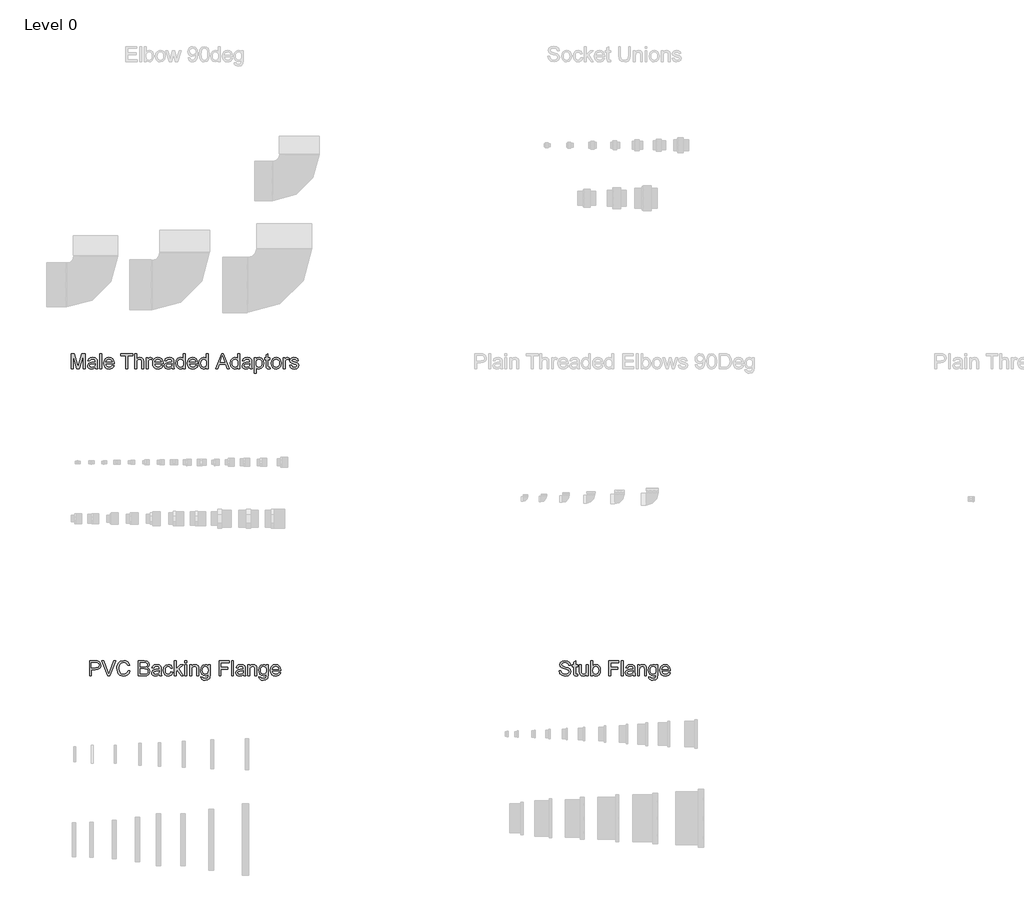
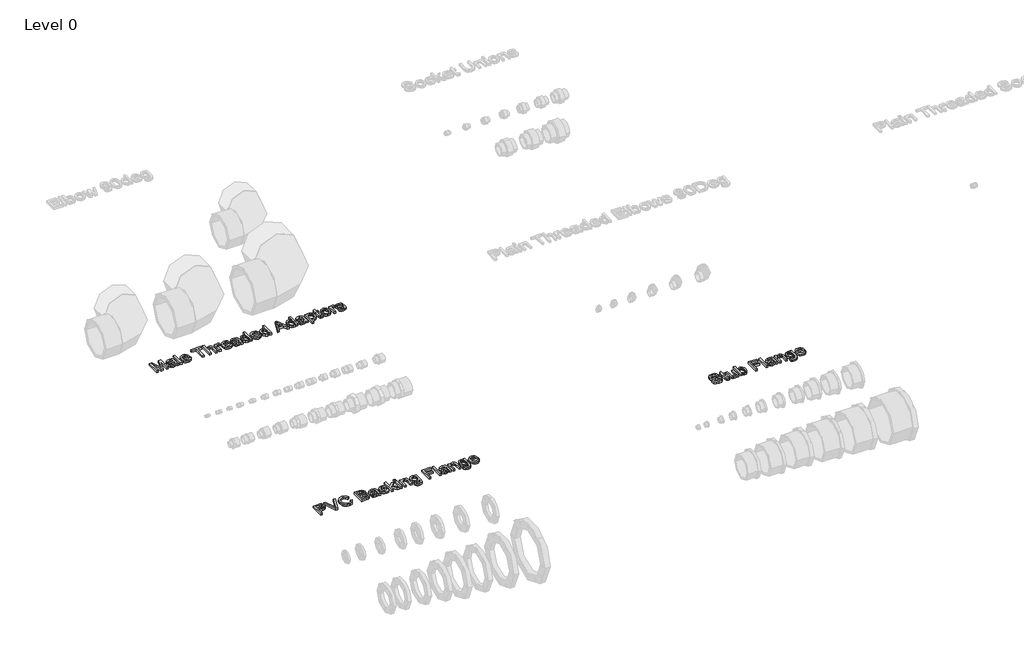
# One storey, part 4 of 12: 3 proxies.
"""IFC4 building model written with IfcOpenShell, lengths in millimetres."""

from ifc_helpers import new_model, si_unit, origin, origin_with_axes, place, context, project, spatial, polyline, outline, extrude, element, save

model = new_model("IFC4")

# Units and contexts
model_context = context("Model", 3, world=origin())
ifc_project = project(units=[si_unit("LENGTHUNIT", "METRE", prefix="MILLI")], contexts=[model_context])

# Site, building, storey
site = spatial("IfcSite", under=ifc_project)
building = spatial("IfcBuilding", under=site)
storey = spatial("IfcBuildingStorey", under=building, Name="Level 0", Elevation=0.0)

# Proxies
placement = place(None, origin())
element("IfcBuildingElementProxy", 1, Name="150mm Arial", ObjectType="150mm Arial", at=placement, inside=storey, context=model_context, shape_type="SweptSolid", body=[
    extrude(outline(polyline([(-16975.6592535, 945.7253457), (-16975.6592535, 1044.1868842), (-16954.4813689, 1044.1868842), (-16934.3371381, 974.7878457), (-16930.2746381, 960.2926534), (-16925.8755996, 975.9897688), (-16906.0679073, 1044.1868842), (-16884.8900227, 1044.1868842), (-16884.8900227, 945.7253457), (-16897.197715, 945.7253457), (-16897.197715, 1031.8791919), (-16921.9332919, 945.7253457), (-16938.6159843, 945.7253457), (-16963.3515612, 1031.8791919), (-16963.3515612, 945.7253457), (-16975.6592535, 945.7253457)])), origin_with_axes(), (0.0, 0.0, 1.0), 15.0),
    extrude(outline(polyline([(-16818.7361766, 954.956115), (-16830.6712727, 946.6147688), (-16843.8563689, 944.1868842), (-16854.1418256, 945.6472207), (-16861.728965, 950.0282304), (-16866.4074506, 956.6808746), (-16867.9669458, 964.956115), (-16865.6111766, 974.6916919), (-16859.4212727, 981.7589996), (-16850.8034843, 985.7974611), (-16840.1544458, 987.6484227), (-16818.8082919, 991.8791919), (-16818.7361766, 994.6195765), (-16822.1255996, 1003.706115), (-16835.7313689, 1007.2638073), (-16848.1832919, 1004.8960188), (-16854.1207919, 996.4945765), (-16866.4284843, 998.033038), (-16861.103965, 1010.0522688), (-16850.3828112, 1017.095538), (-16834.1448304, 1019.5714996), (-16819.228965, 1017.3839996), (-16810.8034843, 1011.8912111), (-16807.0294458, 1003.5378457), (-16806.4284843, 992.768615), (-16806.4284843, 977.456115), (-16805.8034843, 956.0739034), (-16803.3515612, 945.7253457), (-16815.6592535, 945.7253457), (-16818.7361766, 954.956115)]), holes=[polyline([(-16818.7361766, 979.5714996), (-16838.5919458, 975.7974611), (-16849.1808881, 973.8022688), (-16853.9765612, 970.5570765), (-16855.6592535, 965.8214996), (-16851.9933881, 959.1628457), (-16841.2361766, 956.4945765), (-16828.7842535, 959.439288), (-16820.7554073, 966.5666919), (-16818.8082919, 976.0859227), (-16818.7361766, 979.5714996)])]), origin_with_axes(), (0.0, 0.0, 1.0), 15.0),
    extrude(outline(polyline([(-16789.5054073, 945.7253457), (-16789.5054073, 1044.1868842), (-16777.197715, 1044.1868842), (-16777.197715, 945.7253457), (-16789.5054073, 945.7253457)])), origin_with_axes(), (0.0, 0.0, 1.0), 15.0),
    extrude(outline(polyline([(-16708.1111766, 967.2638073), (-16696.0438689, 965.7253457), (-16700.3918256, 956.6327977), (-16707.3299266, 949.8359227), (-16716.7019218, 945.5991438), (-16728.3515612, 944.1868842), (-16742.7926669, 946.6237832), (-16753.9044458, 953.9344804), (-16760.9897823, 965.6442159), (-16763.3515612, 981.2782304), (-16760.9657439, 997.4380861), (-16753.8082919, 1009.5234227), (-16742.8467535, 1017.0594804), (-16729.0486766, 1019.5714996), (-16715.6802871, 1017.06549), (-16704.9981958, 1009.5474611), (-16697.9939891, 997.486163), (-16695.6592535, 981.3503457), (-16695.7313689, 978.033038), (-16751.0438689, 978.033038), (-16748.9134602, 968.8202977), (-16743.9645419, 962.0474611), (-16728.1111766, 956.4945765), (-16716.0438689, 959.0666919), (-16708.1111766, 967.2638073)]), holes=[polyline([(-16751.0438689, 990.3407304), (-16707.9669458, 990.3407304), (-16712.8948304, 1001.4945765), (-16720.0703112, 1005.8214996), (-16729.0967535, 1007.2638073), (-16744.2530035, 1002.6604419), (-16751.0438689, 990.3407304)])]), origin_with_axes(), (0.0, 0.0, 1.0), 15.0),
    extrude(outline(polyline([(-16618.7361766, 945.7253457), (-16618.7361766, 1031.8791919), (-16651.0438689, 1031.8791919), (-16651.0438689, 1044.1868842), (-16574.1207919, 1044.1868842), (-16574.1207919, 1031.8791919), (-16606.4284843, 1031.8791919), (-16606.4284843, 945.7253457), (-16618.7361766, 945.7253457)])), origin_with_axes(), (0.0, 0.0, 1.0), 15.0),
    extrude(outline(polyline([(-16561.8130996, 945.7253457), (-16561.8130996, 1044.1868842), (-16549.5054073, 1044.1868842), (-16549.5054073, 1007.9849611), (-16539.9080516, 1016.674865), (-16528.0871381, 1019.5714996), (-16514.2650227, 1016.4104419), (-16505.8755996, 1007.6724611), (-16503.3515612, 991.4945765), (-16503.3515612, 945.7253457), (-16515.6592535, 945.7253457), (-16515.6592535, 990.220538), (-16519.5775227, 1003.2013073), (-16530.6832919, 1007.2638073), (-16540.7674266, 1004.5234227), (-16547.4981958, 997.095538), (-16549.5054073, 984.1388073), (-16549.5054073, 945.7253457), (-16561.8130996, 945.7253457)])), origin_with_axes(), (0.0, 0.0, 1.0), 15.0),
    extrude(outline(polyline([(-16486.4284843, 945.7253457), (-16486.4284843, 1018.033038), (-16475.6592535, 1018.033038), (-16475.6592535, 1007.3359227), (-16468.0150227, 1017.1916919), (-16460.322715, 1019.5714996), (-16447.9669458, 1015.7734227), (-16452.0775227, 1004.7397688), (-16460.7313689, 1007.2638073), (-16467.6905035, 1004.8359227), (-16472.1255996, 998.1051534), (-16474.1207919, 983.7301534), (-16474.1207919, 945.7253457), (-16486.4284843, 945.7253457)])), origin_with_axes(), (0.0, 0.0, 1.0), 15.0),
    extrude(outline(polyline([(-16389.6496381, 967.2638073), (-16377.5823304, 965.7253457), (-16381.9302871, 956.6327977), (-16388.8683881, 949.8359227), (-16398.2403833, 945.5991438), (-16409.8900227, 944.1868842), (-16424.3311285, 946.6237832), (-16435.4429073, 953.9344804), (-16442.5282439, 965.6442159), (-16444.8900227, 981.2782304), (-16442.5042054, 997.4380861), (-16435.3467535, 1009.5234227), (-16424.385215, 1017.0594804), (-16410.5871381, 1019.5714996), (-16397.2187487, 1017.06549), (-16386.5366573, 1009.5474611), (-16379.5324506, 997.486163), (-16377.197715, 981.3503457), (-16377.2698304, 978.033038), (-16432.5823304, 978.033038), (-16430.4519218, 968.8202977), (-16425.5030035, 962.0474611), (-16409.6496381, 956.4945765), (-16397.5823304, 959.0666919), (-16389.6496381, 967.2638073)]), holes=[polyline([(-16432.5823304, 990.3407304), (-16389.5054073, 990.3407304), (-16394.4332919, 1001.4945765), (-16401.6087727, 1005.8214996), (-16410.635215, 1007.2638073), (-16425.791465, 1002.6604419), (-16432.5823304, 990.3407304)])]), origin_with_axes(), (0.0, 0.0, 1.0), 15.0),
    extrude(outline(polyline([(-16318.7361766, 954.956115), (-16330.6712727, 946.6147688), (-16343.8563689, 944.1868842), (-16354.1418256, 945.6472207), (-16361.728965, 950.0282304), (-16366.4074506, 956.6808746), (-16367.9669458, 964.956115), (-16365.6111766, 974.6916919), (-16359.4212727, 981.7589996), (-16350.8034843, 985.7974611), (-16340.1544458, 987.6484227), (-16318.8082919, 991.8791919), (-16318.7361766, 994.6195765), (-16322.1255996, 1003.706115), (-16335.7313689, 1007.2638073), (-16348.1832919, 1004.8960188), (-16354.1207919, 996.4945765), (-16366.4284843, 998.033038), (-16361.103965, 1010.0522688), (-16350.3828112, 1017.095538), (-16334.1448304, 1019.5714996), (-16319.228965, 1017.3839996), (-16310.8034843, 1011.8912111), (-16307.0294458, 1003.5378457), (-16306.4284843, 992.768615), (-16306.4284843, 977.456115), (-16305.8034843, 956.0739034), (-16303.3515612, 945.7253457), (-16315.6592535, 945.7253457), (-16318.7361766, 954.956115)]), holes=[polyline([(-16318.7361766, 979.5714996), (-16338.5919458, 975.7974611), (-16349.1808881, 973.8022688), (-16353.9765612, 970.5570765), (-16355.6592535, 965.8214996), (-16351.9933881, 959.1628457), (-16341.2361766, 956.4945765), (-16328.7842535, 959.439288), (-16320.7554073, 966.5666919), (-16318.8082919, 976.0859227), (-16318.7361766, 979.5714996)])]), origin_with_axes(), (0.0, 0.0, 1.0), 15.0),
    extrude(outline(polyline([(-16244.8900227, 945.7253457), (-16244.8900227, 957.3359227), (-16253.0330516, 947.4741438), (-16264.2890612, 944.1868842), (-16279.5294458, 948.9464996), (-16290.2986766, 962.2277496), (-16294.1207919, 981.8070765), (-16290.5991573, 1001.3984227), (-16280.0462727, 1014.8839996), (-16264.3371381, 1019.5714996), (-16252.9909843, 1016.2181342), (-16244.8900227, 1007.5041919), (-16244.8900227, 1044.1868842), (-16232.5823304, 1044.1868842), (-16232.5823304, 945.7253457), (-16244.8900227, 945.7253457)]), holes=[polyline([(-16281.8130996, 981.8551534), (-16280.4248785, 970.7223409), (-16276.260215, 962.8046727), (-16270.2085323, 958.0721005), (-16263.1592535, 956.4945765), (-16256.1129794, 957.9999852), (-16250.2145419, 962.5162111), (-16246.2211525, 970.127389), (-16244.8900227, 980.9176534), (-16246.245191, 992.7145284), (-16250.3106958, 1000.893615), (-16256.3593737, 1005.6712592), (-16263.6640612, 1007.2638073), (-16270.7854554, 1005.7343602), (-16276.6207919, 1001.1460188), (-16280.5150227, 993.2644082), (-16281.8130996, 981.8551534)])]), origin_with_axes(), (0.0, 0.0, 1.0), 15.0),
    extrude(outline(polyline([(-16163.4957919, 967.2638073), (-16151.4284843, 965.7253457), (-16155.776441, 956.6327977), (-16162.7145419, 949.8359227), (-16172.0865371, 945.5991438), (-16183.7361766, 944.1868842), (-16198.1772823, 946.6237832), (-16209.2890612, 953.9344804), (-16216.3743977, 965.6442159), (-16218.7361766, 981.2782304), (-16216.3503593, 997.4380861), (-16209.1929073, 1009.5234227), (-16198.2313689, 1017.0594804), (-16184.4332919, 1019.5714996), (-16171.0649025, 1017.06549), (-16160.3828112, 1009.5474611), (-16153.3786044, 997.486163), (-16151.0438689, 981.3503457), (-16151.1159843, 978.033038), (-16206.4284843, 978.033038), (-16204.2980756, 968.8202977), (-16199.3491573, 962.0474611), (-16183.4957919, 956.4945765), (-16171.4284843, 959.0666919), (-16163.4957919, 967.2638073)]), holes=[polyline([(-16206.4284843, 990.3407304), (-16163.3515612, 990.3407304), (-16168.2794458, 1001.4945765), (-16175.4549266, 1005.8214996), (-16184.4813689, 1007.2638073), (-16199.6376189, 1002.6604419), (-16206.4284843, 990.3407304)])]), origin_with_axes(), (0.0, 0.0, 1.0), 15.0),
    extrude(outline(polyline([(-16094.1207919, 945.7253457), (-16094.1207919, 957.3359227), (-16102.2638208, 947.4741438), (-16113.5198304, 944.1868842), (-16128.760215, 948.9464996), (-16139.5294458, 962.2277496), (-16143.3515612, 981.8070765), (-16139.8299266, 1001.3984227), (-16129.2770419, 1014.8839996), (-16113.5679073, 1019.5714996), (-16102.2217535, 1016.2181342), (-16094.1207919, 1007.5041919), (-16094.1207919, 1044.1868842), (-16081.8130996, 1044.1868842), (-16081.8130996, 945.7253457), (-16094.1207919, 945.7253457)]), holes=[polyline([(-16131.0438689, 981.8551534), (-16129.6556477, 970.7223409), (-16125.4909843, 962.8046727), (-16119.4393016, 958.0721005), (-16112.3900227, 956.4945765), (-16105.3437487, 957.9999852), (-16099.4453112, 962.5162111), (-16095.4519218, 970.127389), (-16094.1207919, 980.9176534), (-16095.4759602, 992.7145284), (-16099.541465, 1000.893615), (-16105.5901429, 1005.6712592), (-16112.8948304, 1007.2638073), (-16120.0162246, 1005.7343602), (-16125.8515612, 1001.1460188), (-16129.7457919, 993.2644082), (-16131.0438689, 981.8551534)])]), origin_with_axes(), (0.0, 0.0, 1.0), 15.0),
    extrude(outline(polyline([(-16034.8179073, 945.7253457), (-15995.5150227, 1044.1868842), (-15985.0342535, 1044.1868842), (-15945.7313689, 945.7253457), (-15958.7361766, 945.7253457), (-15970.010215, 976.4945765), (-16010.5630996, 976.4945765), (-16021.8130996, 945.7253457), (-16034.8179073, 945.7253457)]), holes=[polyline([(-16006.0438689, 988.8022688), (-15974.5054073, 988.8022688), (-15983.3755996, 1013.0089996), (-15990.2746381, 1031.8791919), (-15996.4044458, 1015.1243842), (-16006.0438689, 988.8022688)])]), origin_with_axes(), (0.0, 0.0, 1.0), 15.0),
    extrude(outline(polyline([(-15889.5054073, 945.7253457), (-15889.5054073, 957.3359227), (-15897.6484362, 947.4741438), (-15908.9044458, 944.1868842), (-15924.1448304, 948.9464996), (-15934.9140612, 962.2277496), (-15938.7361766, 981.8070765), (-15935.2145419, 1001.3984227), (-15924.6616573, 1014.8839996), (-15908.9525227, 1019.5714996), (-15897.6063689, 1016.2181342), (-15889.5054073, 1007.5041919), (-15889.5054073, 1044.1868842), (-15877.197715, 1044.1868842), (-15877.197715, 945.7253457), (-15889.5054073, 945.7253457)]), holes=[polyline([(-15926.4284843, 981.8551534), (-15925.0402631, 970.7223409), (-15920.8755996, 962.8046727), (-15914.8239169, 958.0721005), (-15907.7746381, 956.4945765), (-15900.7283641, 957.9999852), (-15894.8299266, 962.5162111), (-15890.8365371, 970.127389), (-15889.5054073, 980.9176534), (-15890.8605756, 992.7145284), (-15894.9260804, 1000.893615), (-15900.9747583, 1005.6712592), (-15908.2794458, 1007.2638073), (-15915.40084, 1005.7343602), (-15921.2361766, 1001.1460188), (-15925.1304073, 993.2644082), (-15926.4284843, 981.8551534)])]), origin_with_axes(), (0.0, 0.0, 1.0), 15.0),
    extrude(outline(polyline([(-15812.5823304, 954.956115), (-15824.5174266, 946.6147688), (-15837.7025227, 944.1868842), (-15847.9879794, 945.6472207), (-15855.5751189, 950.0282304), (-15860.2536044, 956.6808746), (-15861.8130996, 964.956115), (-15859.4573304, 974.6916919), (-15853.2674266, 981.7589996), (-15844.6496381, 985.7974611), (-15834.0005996, 987.6484227), (-15812.6544458, 991.8791919), (-15812.5823304, 994.6195765), (-15815.9717535, 1003.706115), (-15829.5775227, 1007.2638073), (-15842.0294458, 1004.8960188), (-15847.9669458, 996.4945765), (-15860.2746381, 998.033038), (-15854.9501189, 1010.0522688), (-15844.228965, 1017.095538), (-15827.9909843, 1019.5714996), (-15813.0751189, 1017.3839996), (-15804.6496381, 1011.8912111), (-15800.8755996, 1003.5378457), (-15800.2746381, 992.768615), (-15800.2746381, 977.456115), (-15799.6496381, 956.0739034), (-15797.197715, 945.7253457), (-15809.5054073, 945.7253457), (-15812.5823304, 954.956115)]), holes=[polyline([(-15812.5823304, 979.5714996), (-15832.4380996, 975.7974611), (-15843.0270419, 973.8022688), (-15847.822715, 970.5570765), (-15849.5054073, 965.8214996), (-15845.8395419, 959.1628457), (-15835.0823304, 956.4945765), (-15822.6304073, 959.439288), (-15814.6015612, 966.5666919), (-15812.6544458, 976.0859227), (-15812.5823304, 979.5714996)])]), origin_with_axes(), (0.0, 0.0, 1.0), 15.0),
    extrude(outline(polyline([(-15783.3515612, 918.033038), (-15783.3515612, 1018.033038), (-15771.0438689, 1018.033038), (-15771.0438689, 1005.9657304), (-15762.5342535, 1016.1700573), (-15751.0438689, 1019.5714996), (-15735.4429073, 1014.8118842), (-15725.2505996, 1001.3984227), (-15721.8130996, 982.4320765), (-15725.6953112, 962.4921727), (-15736.9693496, 948.9104419), (-15752.5342535, 944.1868842), (-15763.2433881, 947.3479419), (-15771.0438689, 955.3407304), (-15771.0438689, 918.033038), (-15783.3515612, 918.033038)]), holes=[polyline([(-15771.0438689, 981.3022688), (-15769.7127391, 970.268615), (-15765.7193496, 962.5522688), (-15759.8269218, 958.0089996), (-15752.7986766, 956.4945765), (-15745.6562487, 958.0630861), (-15739.6135804, 962.768615), (-15735.4939891, 970.767413), (-15734.1207919, 982.2157304), (-15735.4609362, 993.189288), (-15739.4813689, 1001.0138073), (-15745.3647823, 1005.7013073), (-15752.2938689, 1007.2638073), (-15759.2499987, 1005.6021486), (-15765.3587727, 1000.6171727), (-15769.6225948, 992.4651294), (-15771.0438689, 981.3022688)])]), origin_with_axes(), (0.0, 0.0, 1.0), 15.0),
    extrude(outline(polyline([(-15681.8130996, 955.9897688), (-15680.2746381, 945.3647688), (-15689.4813689, 944.1868842), (-15699.7938689, 946.2301534), (-15704.9380996, 951.5907304), (-15706.4284843, 965.5570765), (-15706.4284843, 1005.7253457), (-15715.6592535, 1005.7253457), (-15715.6592535, 1018.033038), (-15706.4284843, 1018.033038), (-15706.4284843, 1035.6051534), (-15694.1207919, 1042.8407304), (-15694.1207919, 1018.033038), (-15681.8130996, 1018.033038), (-15681.8130996, 1005.7253457), (-15694.1207919, 1005.7253457), (-15694.1207919, 965.9176534), (-15693.4717535, 959.5714996), (-15691.3683881, 957.3239034), (-15687.1736766, 956.4945765), (-15681.8130996, 955.9897688)])), origin_with_axes(), (0.0, 0.0, 1.0), 15.0),
    extrude(outline(polyline([(-15672.5823304, 981.8791919), (-15669.9200708, 999.3130861), (-15661.9332919, 1011.5666919), (-15652.0655035, 1017.5702977), (-15640.2505996, 1019.5714996), (-15627.3209121, 1017.1346005), (-15616.9933881, 1009.8239034), (-15610.2235564, 998.2163313), (-15607.9669458, 982.8888073), (-15611.9573304, 960.9897688), (-15623.5799266, 948.5979419), (-15640.2505996, 944.1868842), (-15653.3365371, 946.6147688), (-15663.6520419, 953.8984227), (-15670.3497583, 965.7493842), (-15672.5823304, 981.8791919)]), holes=[polyline([(-15660.2746381, 981.9032304), (-15658.8503593, 970.7644082), (-15654.5775227, 962.8287111), (-15648.1472343, 958.0781102), (-15640.2505996, 956.4945765), (-15632.3900227, 958.0871246), (-15625.9717535, 962.8647688), (-15621.6989169, 970.9056342), (-15620.2746381, 982.2878457), (-15621.7079314, 993.1021486), (-15626.0078112, 1000.9296727), (-15632.4350948, 1005.6802736), (-15640.2505996, 1007.2638073), (-15648.1472343, 1005.6862832), (-15654.5775227, 1000.9537111), (-15658.8503593, 993.0360429), (-15660.2746381, 981.9032304)])]), origin_with_axes(), (0.0, 0.0, 1.0), 15.0),
    extrude(outline(polyline([(-15594.1207919, 945.7253457), (-15594.1207919, 1018.033038), (-15583.3515612, 1018.033038), (-15583.3515612, 1007.3359227), (-15575.7073304, 1017.1916919), (-15568.0150227, 1019.5714996), (-15555.6592535, 1015.7734227), (-15559.7698304, 1004.7397688), (-15568.4236766, 1007.2638073), (-15575.3828112, 1004.8359227), (-15579.8179073, 998.1051534), (-15581.8130996, 983.7301534), (-15581.8130996, 945.7253457), (-15594.1207919, 945.7253457)])), origin_with_axes(), (0.0, 0.0, 1.0), 15.0),
    extrude(outline(polyline([(-15552.5823304, 967.2638073), (-15540.2746381, 968.8022688), (-15534.5775227, 959.6676534), (-15521.5246381, 956.4945765), (-15508.9765612, 959.4032304), (-15504.8900227, 966.2301534), (-15509.0005996, 971.7589996), (-15521.6688689, 975.268615), (-15540.2025227, 981.2902496), (-15548.291465, 988.3214996), (-15551.0438689, 998.2493842), (-15548.8323304, 1007.4200573), (-15542.7986766, 1014.4272688), (-15534.9741573, 1018.0690957), (-15524.385215, 1019.5714996), (-15509.4092535, 1017.1556342), (-15499.8900227, 1010.6171727), (-15495.6592535, 999.5714996), (-15507.9669458, 998.033038), (-15512.5943496, 1004.8239034), (-15523.4236766, 1007.2638073), (-15535.2025227, 1004.9320765), (-15538.7361766, 999.4993842), (-15537.2698304, 995.9176534), (-15532.6784843, 993.2013073), (-15522.0775227, 990.581115), (-15504.0126189, 984.7878457), (-15495.6231958, 978.2253457), (-15492.5823304, 967.5282304), (-15496.1520419, 955.7493842), (-15506.4525227, 947.2037111), (-15521.6929073, 944.1868842), (-15534.1027631, 945.6412111), (-15543.1592535, 950.0041919), (-15549.2049266, 957.2277496), (-15552.5823304, 967.2638073)])), origin_with_axes(), (0.0, 0.0, 1.0), 15.0),
])
element("IfcBuildingElementProxy", 2, Name="150mm Arial", ObjectType="150mm Arial", at=placement, inside=storey, context=model_context, shape_type="SweptSolid", body=[
    extrude(outline(polyline([(-16855.6592535, -1054.2746543), (-16855.6592535, -955.8131158), (-16819.1688689, -955.8131158), (-16804.4573304, -956.7506158), (-16792.4981958, -961.3539812), (-16784.7457919, -970.873212), (-16781.8130996, -984.2986927), (-16783.7932679, -995.90326), (-16789.7337727, -1005.5727312), (-16800.8425468, -1012.0991735), (-16818.3275227, -1014.2746543), (-16843.3515612, -1014.2746543), (-16843.3515612, -1054.2746543), (-16855.6592535, -1054.2746543)]), holes=[polyline([(-16843.3515612, -1001.966962), (-16817.6063689, -1001.966962), (-16799.4813689, -997.4477312), (-16795.4609362, -992.0090293), (-16794.1207919, -984.731385), (-16797.2818496, -974.5390773), (-16805.5871381, -968.9621543), (-16817.8948304, -968.1208081), (-16843.3515612, -968.1208081), (-16843.3515612, -1001.966962)])]), origin_with_axes(), (0.0, 0.0, 1.0), 15.0),
    extrude(outline(polyline([(-16735.8034843, -1054.2746543), (-16774.9861766, -955.8131158), (-16761.8130996, -955.8131158), (-16735.5871381, -1026.7506158), (-16730.2746381, -1042.7361927), (-16725.0342535, -1026.7506158), (-16698.7361766, -955.8131158), (-16685.5630996, -955.8131158), (-16723.0871381, -1054.2746543), (-16735.8034843, -1054.2746543)])), origin_with_axes(), (0.0, 0.0, 1.0), 15.0),
    extrude(outline(polyline([(-16604.8900227, -1019.2746543), (-16592.5823304, -1022.4477312), (-16598.2614169, -1036.7896783), (-16607.1736766, -1047.2674427), (-16618.8804073, -1053.6766975), (-16632.9429073, -1055.8131158), (-16647.2187487, -1054.1965293), (-16658.5558881, -1049.3467696), (-16667.2457919, -1041.4321062), (-16673.5799266, -1030.6208081), (-16678.7361766, -1004.2986927), (-16677.2788448, -989.9417216), (-16672.9068496, -977.543885), (-16665.8485564, -967.4988129), (-16656.3323304, -960.200135), (-16632.6784843, -954.2746543), (-16619.1838929, -956.1917216), (-16608.0270419, -961.9429235), (-16599.5564891, -971.1736927), (-16594.1207919, -983.529462), (-16606.4284843, -986.4621543), (-16616.5246381, -971.3299427), (-16633.1592535, -966.5823466), (-16652.4140612, -971.8467696), (-16663.291465, -985.981385), (-16666.4284843, -1004.2746543), (-16662.7145419, -1025.4765773), (-16651.1520419, -1039.0222504), (-16634.1688689, -1043.5054235), (-16623.8954314, -1041.9789812), (-16615.3347343, -1037.3996543), (-16608.8713929, -1029.8155196), (-16604.8900227, -1019.2746543)])), origin_with_axes(), (0.0, 0.0, 1.0), 15.0),
    extrude(outline(polyline([(-16537.197715, -1054.2746543), (-16537.197715, -955.8131158), (-16499.6255996, -955.8131158), (-16481.2241573, -958.7097504), (-16470.3587727, -967.6160004), (-16466.4284843, -980.2121543), (-16469.7337727, -991.7145581), (-16479.7217535, -1000.4285004), (-16467.5943496, -1009.6111927), (-16463.3515612, -1024.9236927), (-16466.2481958, -1038.1568658), (-16473.4236766, -1047.5799427), (-16484.1328112, -1052.5799427), (-16499.9140612, -1054.2746543), (-16537.197715, -1054.2746543)]), holes=[polyline([(-16524.8900227, -1041.966962), (-16499.6496381, -1041.966962), (-16490.5150227, -1041.4861927), (-16482.7866573, -1038.8059043), (-16477.666465, -1033.3371543), (-16475.6592535, -1025.043885), (-16478.0150227, -1015.4765773), (-16485.6472343, -1009.7674427), (-16500.8515612, -1008.1208081), (-16524.8900227, -1008.1208081), (-16524.8900227, -1041.966962)]), polyline([(-16524.8900227, -995.8131158), (-16502.4140612, -995.8131158), (-16489.2890612, -994.7554235), (-16481.3924266, -990.200135), (-16478.7361766, -982.1833081), (-16481.2121381, -974.154462), (-16488.3034843, -969.4068658), (-16504.1207919, -968.1208081), (-16524.8900227, -968.1208081), (-16524.8900227, -995.8131158)])]), origin_with_axes(), (0.0, 0.0, 1.0), 15.0),
    extrude(outline(polyline([(-16401.8130996, -1045.043885), (-16413.7481958, -1053.3852312), (-16426.9332919, -1055.8131158), (-16437.2187487, -1054.3527793), (-16444.8058881, -1049.9717696), (-16449.4843737, -1043.3191254), (-16451.0438689, -1035.043885), (-16448.6880996, -1025.3083081), (-16442.4981958, -1018.2410004), (-16433.8804073, -1014.2025389), (-16423.2313689, -1012.3515773), (-16401.885215, -1008.1208081), (-16401.8130996, -1005.3804235), (-16405.2025227, -996.293885), (-16418.8082919, -992.7361927), (-16431.260215, -995.1039812), (-16437.197715, -1003.5054235), (-16449.5054073, -1001.966962), (-16444.1808881, -989.9477312), (-16433.4597343, -982.904462), (-16417.2217535, -980.4285004), (-16402.3058881, -982.6160004), (-16393.8804073, -988.1087889), (-16390.1063689, -996.4621543), (-16389.5054073, -1007.231385), (-16389.5054073, -1022.543885), (-16388.8804073, -1043.9260966), (-16386.4284843, -1054.2746543), (-16398.7361766, -1054.2746543), (-16401.8130996, -1045.043885)]), holes=[polyline([(-16401.8130996, -1020.4285004), (-16421.6688689, -1024.2025389), (-16432.2578112, -1026.1977312), (-16437.0534843, -1029.4429235), (-16438.7361766, -1034.1785004), (-16435.0703112, -1040.8371543), (-16424.3130996, -1043.5054235), (-16411.8611766, -1040.560712), (-16403.8323304, -1033.4333081), (-16401.885215, -1023.9140773), (-16401.8130996, -1020.4285004)])]), origin_with_axes(), (0.0, 0.0, 1.0), 15.0),
    extrude(outline(polyline([(-16326.4284843, -1028.1208081), (-16314.1207919, -1029.6592696), (-16317.5522823, -1040.6057841), (-16324.0005996, -1048.8780196), (-16332.8587727, -1054.0793418), (-16343.5198304, -1055.8131158), (-16356.6117775, -1053.3942456), (-16366.8491573, -1046.137635), (-16373.4567294, -1034.3617937), (-16375.6592535, -1018.3852312), (-16371.8972343, -997.9405196), (-16360.4308881, -984.8035004), (-16343.6880996, -980.4285004), (-16333.2884602, -981.9309043), (-16324.9741573, -986.4381158), (-16319.0096141, -993.7097504), (-16315.6592535, -1003.5054235), (-16327.9669458, -1005.043885), (-16333.6760804, -995.825135), (-16343.5919458, -992.7361927), (-16351.5456718, -994.2566254), (-16357.8587727, -998.8179235), (-16361.9783641, -1006.6664812), (-16363.3515612, -1018.0486927), (-16362.0084121, -1029.5841495), (-16357.978965, -1037.4597504), (-16351.7800468, -1041.9940052), (-16343.9284843, -1043.5054235), (-16332.3299266, -1039.731385), (-16326.4284843, -1028.1208081)])), origin_with_axes(), (0.0, 0.0, 1.0), 15.0),
    extrude(outline(polyline([(-16303.3515612, -1054.2746543), (-16303.3515612, -955.8131158), (-16291.0438689, -955.8131158), (-16291.0438689, -1008.7217696), (-16263.447715, -981.966962), (-16246.4284843, -981.966962), (-16274.3611766, -1009.0583081), (-16244.8900227, -1054.2746543), (-16259.2650227, -1054.2746543), (-16283.1832919, -1017.6160004), (-16291.0438689, -1025.2361927), (-16291.0438689, -1054.2746543), (-16303.3515612, -1054.2746543)])), origin_with_axes(), (0.0, 0.0, 1.0), 15.0),
    extrude(outline(polyline([(-16234.1207919, -1054.2746543), (-16234.1207919, -981.966962), (-16221.8130996, -981.966962), (-16221.8130996, -1054.2746543), (-16234.1207919, -1054.2746543)])), origin_with_axes(), (0.0, 0.0, 1.0), 15.0),
    extrude(outline(polyline([(-16234.1207919, -968.1208081), (-16234.1207919, -955.8131158), (-16221.8130996, -955.8131158), (-16221.8130996, -968.1208081), (-16234.1207919, -968.1208081)])), origin_with_axes(), (0.0, 0.0, 1.0), 15.0),
    extrude(outline(polyline([(-16203.3515612, -1054.2746543), (-16203.3515612, -981.966962), (-16191.0438689, -981.966962), (-16191.0438689, -992.0631158), (-16181.6328112, -983.3371543), (-16168.7842535, -980.4285004), (-16157.1616573, -982.7722504), (-16149.228965, -988.9260966), (-16145.5390612, -997.9765773), (-16144.8900227, -1009.8756158), (-16144.8900227, -1054.2746543), (-16157.197715, -1054.2746543), (-16157.197715, -1011.5342696), (-16158.6159843, -1000.6448466), (-16163.6280035, -994.887635), (-16172.0775227, -992.7361927), (-16185.4308881, -997.5679235), (-16189.6406237, -1004.5691254), (-16191.0438689, -1015.9092696), (-16191.0438689, -1054.2746543), (-16203.3515612, -1054.2746543)])), origin_with_axes(), (0.0, 0.0, 1.0), 15.0),
    extrude(outline(polyline([(-16131.0438689, -1060.4285004), (-16118.7361766, -1061.966962), (-16114.7457919, -1068.4573466), (-16102.7986766, -1071.1977312), (-16090.2025227, -1068.0967696), (-16084.1929073, -1059.3948466), (-16083.3515612, -1045.043885), (-16092.0174266, -1051.966962), (-16102.5823304, -1054.2746543), (-16115.2716333, -1051.5883562), (-16124.7337727, -1043.529462), (-16130.620191, -1031.7145581), (-16132.5823304, -1017.7602312), (-16129.0606958, -998.685712), (-16118.8683881, -985.1881158), (-16103.1832919, -980.4285004), (-16092.2037246, -983.1208081), (-16083.3515612, -991.1977312), (-16083.3515612, -981.966962), (-16071.0438689, -981.966962), (-16071.0438689, -1044.3948466), (-16074.4092535, -1068.3010966), (-16085.0703112, -1079.418885), (-16103.0390612, -1083.5054235), (-16114.4903833, -1082.0661206), (-16123.5078112, -1077.748212), (-16129.292066, -1070.5396783), (-16131.0438689, -1060.4285004)]), holes=[polyline([(-16120.2746381, -1016.918885), (-16118.9615371, -1028.2079475), (-16115.0222343, -1035.9693658), (-16109.0997583, -1040.4675629), (-16101.8371381, -1041.966962), (-16094.6286044, -1040.4765773), (-16088.6760804, -1036.0054235), (-16084.682691, -1028.3431639), (-16083.3515612, -1017.279462), (-16084.7217535, -1006.6093898), (-16088.8323304, -998.9260966), (-16094.8719939, -994.2836687), (-16102.0294458, -992.7361927), (-16109.057691, -994.2596302), (-16114.9501189, -998.8299427), (-16118.9435083, -1006.3990533), (-16120.2746381, -1016.918885)])]), origin_with_axes(), (0.0, 0.0, 1.0), 15.0),
    extrude(outline(polyline([(-16012.5823304, -1054.2746543), (-16012.5823304, -955.8131158), (-15946.4284843, -955.8131158), (-15946.4284843, -968.1208081), (-16000.2746381, -968.1208081), (-16000.2746381, -997.3515773), (-15954.1207919, -997.3515773), (-15954.1207919, -1009.6592696), (-16000.2746381, -1009.6592696), (-16000.2746381, -1054.2746543), (-16012.5823304, -1054.2746543)])), origin_with_axes(), (0.0, 0.0, 1.0), 15.0),
    extrude(outline(polyline([(-15931.0438689, -1054.2746543), (-15931.0438689, -955.8131158), (-15918.7361766, -955.8131158), (-15918.7361766, -1054.2746543), (-15931.0438689, -1054.2746543)])), origin_with_axes(), (0.0, 0.0, 1.0), 15.0),
    extrude(outline(polyline([(-15854.1207919, -1045.043885), (-15866.0558881, -1053.3852312), (-15879.2409843, -1055.8131158), (-15889.526441, -1054.3527793), (-15897.1135804, -1049.9717696), (-15901.792066, -1043.3191254), (-15903.3515612, -1035.043885), (-15900.9957919, -1025.3083081), (-15894.8058881, -1018.2410004), (-15886.1880996, -1014.2025389), (-15875.5390612, -1012.3515773), (-15854.1929073, -1008.1208081), (-15854.1207919, -1005.3804235), (-15857.510215, -996.293885), (-15871.1159843, -992.7361927), (-15883.5679073, -995.1039812), (-15889.5054073, -1003.5054235), (-15901.8130996, -1001.966962), (-15896.4885804, -989.9477312), (-15885.7674266, -982.904462), (-15869.5294458, -980.4285004), (-15854.6135804, -982.6160004), (-15846.1880996, -988.1087889), (-15842.4140612, -996.4621543), (-15841.8130996, -1007.231385), (-15841.8130996, -1022.543885), (-15841.1880996, -1043.9260966), (-15838.7361766, -1054.2746543), (-15851.0438689, -1054.2746543), (-15854.1207919, -1045.043885)]), holes=[polyline([(-15854.1207919, -1020.4285004), (-15873.9765612, -1024.2025389), (-15884.5655035, -1026.1977312), (-15889.3611766, -1029.4429235), (-15891.0438689, -1034.1785004), (-15887.3780035, -1040.8371543), (-15876.6207919, -1043.5054235), (-15864.1688689, -1040.560712), (-15856.1400227, -1033.4333081), (-15854.1929073, -1023.9140773), (-15854.1207919, -1020.4285004)])]), origin_with_axes(), (0.0, 0.0, 1.0), 15.0),
    extrude(outline(polyline([(-15824.8900227, -1054.2746543), (-15824.8900227, -981.966962), (-15812.5823304, -981.966962), (-15812.5823304, -992.0631158), (-15803.1712727, -983.3371543), (-15790.322715, -980.4285004), (-15778.7001189, -982.7722504), (-15770.7674266, -988.9260966), (-15767.0775227, -997.9765773), (-15766.4284843, -1009.8756158), (-15766.4284843, -1054.2746543), (-15778.7361766, -1054.2746543), (-15778.7361766, -1011.5342696), (-15780.1544458, -1000.6448466), (-15785.166465, -994.887635), (-15793.6159843, -992.7361927), (-15806.9693496, -997.5679235), (-15811.1790852, -1004.5691254), (-15812.5823304, -1015.9092696), (-15812.5823304, -1054.2746543), (-15824.8900227, -1054.2746543)])), origin_with_axes(), (0.0, 0.0, 1.0), 15.0),
    extrude(outline(polyline([(-15752.5823304, -1060.4285004), (-15740.2746381, -1061.966962), (-15736.2842535, -1068.4573466), (-15724.3371381, -1071.1977312), (-15711.7409843, -1068.0967696), (-15705.7313689, -1059.3948466), (-15704.8900227, -1045.043885), (-15713.5558881, -1051.966962), (-15724.1207919, -1054.2746543), (-15736.8100948, -1051.5883562), (-15746.2722343, -1043.529462), (-15752.1586525, -1031.7145581), (-15754.1207919, -1017.7602312), (-15750.5991573, -998.685712), (-15740.4068496, -985.1881158), (-15724.7217535, -980.4285004), (-15713.7421862, -983.1208081), (-15704.8900227, -991.1977312), (-15704.8900227, -981.966962), (-15692.5823304, -981.966962), (-15692.5823304, -1044.3948466), (-15695.947715, -1068.3010966), (-15706.6087727, -1079.418885), (-15724.5775227, -1083.5054235), (-15736.0288448, -1082.0661206), (-15745.0462727, -1077.748212), (-15750.8305275, -1070.5396783), (-15752.5823304, -1060.4285004)]), holes=[polyline([(-15741.8130996, -1016.918885), (-15740.4999987, -1028.2079475), (-15736.5606958, -1035.9693658), (-15730.6382198, -1040.4675629), (-15723.3755996, -1041.966962), (-15716.167066, -1040.4765773), (-15710.2145419, -1036.0054235), (-15706.2211525, -1028.3431639), (-15704.8900227, -1017.279462), (-15706.260215, -1006.6093898), (-15710.3707919, -998.9260966), (-15716.4104554, -994.2836687), (-15723.5679073, -992.7361927), (-15730.5961525, -994.2596302), (-15736.4885804, -998.8299427), (-15740.4819698, -1006.3990533), (-15741.8130996, -1016.918885)])]), origin_with_axes(), (0.0, 0.0, 1.0), 15.0),
    extrude(outline(polyline([(-15623.4957919, -1032.7361927), (-15611.4284843, -1034.2746543), (-15615.776441, -1043.3672023), (-15622.7145419, -1050.1640773), (-15632.0865371, -1054.4008562), (-15643.7361766, -1055.8131158), (-15658.1772823, -1053.3762168), (-15669.2890612, -1046.0655196), (-15676.3743977, -1034.3557841), (-15678.7361766, -1018.7217696), (-15676.3503593, -1002.5619139), (-15669.1929073, -990.4765773), (-15658.2313689, -982.9405196), (-15644.4332919, -980.4285004), (-15631.0649025, -982.93451), (-15620.3828112, -990.4525389), (-15613.3786044, -1002.513837), (-15611.0438689, -1018.6496543), (-15611.1159843, -1021.966962), (-15666.4284843, -1021.966962), (-15664.2980756, -1031.1797023), (-15659.3491573, -1037.9525389), (-15643.4957919, -1043.5054235), (-15631.4284843, -1040.9333081), (-15623.4957919, -1032.7361927)]), holes=[polyline([(-15666.4284843, -1009.6592696), (-15623.3515612, -1009.6592696), (-15628.2794458, -998.5054235), (-15635.4549266, -994.1785004), (-15644.4813689, -992.7361927), (-15659.6376189, -997.3395581), (-15666.4284843, -1009.6592696)])]), origin_with_axes(), (0.0, 0.0, 1.0), 15.0),
])
element("IfcBuildingElementProxy", 3, Name="150mm Arial", ObjectType="150mm Arial", at=placement, inside=storey, context=model_context, shape_type="SweptSolid", body=[
    extrude(outline(polyline([(-13797.9669458, -1020.4285004), (-13785.6592535, -1020.4285004), (-13781.6929073, -1032.748212), (-13772.0054073, -1040.5366735), (-13757.2457919, -1043.5054235), (-13744.385215, -1041.2578273), (-13736.0799266, -1035.0799427), (-13733.3515612, -1026.8227312), (-13735.3948304, -1019.1424427), (-13743.760215, -1013.5535004), (-13761.6808881, -1008.8539812), (-13780.9717535, -1002.7842696), (-13791.4405035, -993.6256158), (-13794.8900227, -981.3900389), (-13790.6231958, -967.4597504), (-13778.1592535, -957.6280196), (-13759.9140612, -954.2746543), (-13740.4429073, -957.7842696), (-13727.4621381, -968.0967696), (-13722.5823304, -983.5054235), (-13734.8900227, -983.5054235), (-13741.8611766, -970.8611927), (-13759.4332919, -966.5823466), (-13777.0534843, -970.8131158), (-13782.5823304, -981.029462), (-13778.6640612, -989.5631158), (-13758.5679073, -996.4381158), (-13736.7890612, -1002.6160004), (-13724.8780035, -1012.591962), (-13721.0438689, -1026.5102312), (-13725.4549266, -1041.2337889), (-13738.1472343, -1051.9789812), (-13756.7650227, -1055.8131158), (-13778.7481958, -1051.6785004), (-13792.6544458, -1039.2265773), (-13797.9669458, -1020.4285004)])), origin_with_axes(), (0.0, 0.0, 1.0), 15.0),
    extrude(outline(polyline([(-13677.9669458, -1044.0102312), (-13676.4284843, -1054.6352312), (-13685.635215, -1055.8131158), (-13695.947715, -1053.7698466), (-13701.0919458, -1048.4092696), (-13702.5823304, -1034.4429235), (-13702.5823304, -994.2746543), (-13711.8130996, -994.2746543), (-13711.8130996, -981.966962), (-13702.5823304, -981.966962), (-13702.5823304, -964.3948466), (-13690.2746381, -957.1592696), (-13690.2746381, -981.966962), (-13677.9669458, -981.966962), (-13677.9669458, -994.2746543), (-13690.2746381, -994.2746543), (-13690.2746381, -1034.0823466), (-13689.6255996, -1040.4285004), (-13687.5222343, -1042.6760966), (-13683.3275227, -1043.5054235), (-13677.9669458, -1044.0102312)])), origin_with_axes(), (0.0, 0.0, 1.0), 15.0),
    extrude(outline(polyline([(-13619.5054073, -1054.2746543), (-13619.5054073, -1041.8467696), (-13629.1448304, -1052.3215293), (-13641.7169458, -1055.8131158), (-13653.291465, -1053.3611927), (-13661.2722343, -1047.2073466), (-13664.9380996, -1038.1448466), (-13665.6592535, -1026.7025389), (-13665.6592535, -981.966962), (-13653.3515612, -981.966962), (-13653.3515612, -1020.9092696), (-13652.6063689, -1033.4573466), (-13647.7385804, -1040.825135), (-13638.5679073, -1043.5054235), (-13628.291465, -1040.7650389), (-13621.5005996, -1033.3010966), (-13619.5054073, -1019.5871543), (-13619.5054073, -981.966962), (-13607.197715, -981.966962), (-13607.197715, -1054.2746543), (-13619.5054073, -1054.2746543)])), origin_with_axes(), (0.0, 0.0, 1.0), 15.0),
    extrude(outline(polyline([(-13577.9669458, -1054.2746543), (-13590.2746381, -1054.2746543), (-13590.2746381, -955.8131158), (-13577.9669458, -955.8131158), (-13577.9669458, -992.3275389), (-13569.3491573, -983.40326), (-13558.6400227, -980.4285004), (-13546.3082919, -983.1087889), (-13536.7409843, -990.6448466), (-13530.8635804, -1002.3635966), (-13528.7361766, -1017.0390773), (-13530.9387006, -1033.4693658), (-13537.5462727, -1045.6929235), (-13547.2427871, -1053.2830677), (-13558.7121381, -1055.8131158), (-13569.6556477, -1052.5498946), (-13577.9669458, -1042.7602312), (-13577.9669458, -1054.2746543)]), holes=[polyline([(-13577.9669458, -1017.6160004), (-13574.6015612, -1034.8275389), (-13568.1532439, -1041.3359523), (-13559.7698304, -1043.5054235), (-13552.666465, -1041.9068658), (-13546.5967535, -1037.1111927), (-13542.43209, -1029.1484523), (-13541.0438689, -1018.0486927), (-13542.3749987, -1006.7866735), (-13546.3683881, -998.9140773), (-13552.2487968, -994.2806639), (-13559.2409843, -992.7361927), (-13566.3443496, -994.3347504), (-13572.4140612, -999.1304235), (-13576.5787246, -1006.9489331), (-13577.9669458, -1017.6160004)])]), origin_with_axes(), (0.0, 0.0, 1.0), 15.0),
    extrude(outline(polyline([(-13474.8900227, -1054.2746543), (-13474.8900227, -955.8131158), (-13408.7361766, -955.8131158), (-13408.7361766, -968.1208081), (-13462.5823304, -968.1208081), (-13462.5823304, -997.3515773), (-13416.4284843, -997.3515773), (-13416.4284843, -1009.6592696), (-13462.5823304, -1009.6592696), (-13462.5823304, -1054.2746543), (-13474.8900227, -1054.2746543)])), origin_with_axes(), (0.0, 0.0, 1.0), 15.0),
    extrude(outline(polyline([(-13393.3515612, -1054.2746543), (-13393.3515612, -955.8131158), (-13381.0438689, -955.8131158), (-13381.0438689, -1054.2746543), (-13393.3515612, -1054.2746543)])), origin_with_axes(), (0.0, 0.0, 1.0), 15.0),
    extrude(outline(polyline([(-13316.4284843, -1045.043885), (-13328.3635804, -1053.3852312), (-13341.5486766, -1055.8131158), (-13351.8341333, -1054.3527793), (-13359.4212727, -1049.9717696), (-13364.0997583, -1043.3191254), (-13365.6592535, -1035.043885), (-13363.3034843, -1025.3083081), (-13357.1135804, -1018.2410004), (-13348.4957919, -1014.2025389), (-13337.8467535, -1012.3515773), (-13316.5005996, -1008.1208081), (-13316.4284843, -1005.3804235), (-13319.8179073, -996.293885), (-13333.4236766, -992.7361927), (-13345.8755996, -995.1039812), (-13351.8130996, -1003.5054235), (-13364.1207919, -1001.966962), (-13358.7962727, -989.9477312), (-13348.0751189, -982.904462), (-13331.8371381, -980.4285004), (-13316.9212727, -982.6160004), (-13308.4957919, -988.1087889), (-13304.7217535, -996.4621543), (-13304.1207919, -1007.231385), (-13304.1207919, -1022.543885), (-13303.4957919, -1043.9260966), (-13301.0438689, -1054.2746543), (-13313.3515612, -1054.2746543), (-13316.4284843, -1045.043885)]), holes=[polyline([(-13316.4284843, -1020.4285004), (-13336.2842535, -1024.2025389), (-13346.8731958, -1026.1977312), (-13351.6688689, -1029.4429235), (-13353.3515612, -1034.1785004), (-13349.6856958, -1040.8371543), (-13338.9284843, -1043.5054235), (-13326.4765612, -1040.560712), (-13318.447715, -1033.4333081), (-13316.5005996, -1023.9140773), (-13316.4284843, -1020.4285004)])]), origin_with_axes(), (0.0, 0.0, 1.0), 15.0),
    extrude(outline(polyline([(-13287.197715, -1054.2746543), (-13287.197715, -981.966962), (-13274.8900227, -981.966962), (-13274.8900227, -992.0631158), (-13265.478965, -983.3371543), (-13252.6304073, -980.4285004), (-13241.0078112, -982.7722504), (-13233.0751189, -988.9260966), (-13229.385215, -997.9765773), (-13228.7361766, -1009.8756158), (-13228.7361766, -1054.2746543), (-13241.0438689, -1054.2746543), (-13241.0438689, -1011.5342696), (-13242.4621381, -1000.6448466), (-13247.4741573, -994.887635), (-13255.9236766, -992.7361927), (-13269.2770419, -997.5679235), (-13273.4867775, -1004.5691254), (-13274.8900227, -1015.9092696), (-13274.8900227, -1054.2746543), (-13287.197715, -1054.2746543)])), origin_with_axes(), (0.0, 0.0, 1.0), 15.0),
    extrude(outline(polyline([(-13214.8900227, -1060.4285004), (-13202.5823304, -1061.966962), (-13198.5919458, -1068.4573466), (-13186.6448304, -1071.1977312), (-13174.0486766, -1068.0967696), (-13168.0390612, -1059.3948466), (-13167.197715, -1045.043885), (-13175.8635804, -1051.966962), (-13186.4284843, -1054.2746543), (-13199.1177871, -1051.5883562), (-13208.5799266, -1043.529462), (-13214.4663448, -1031.7145581), (-13216.4284843, -1017.7602312), (-13212.9068496, -998.685712), (-13202.7145419, -985.1881158), (-13187.0294458, -980.4285004), (-13176.0498785, -983.1208081), (-13167.197715, -991.1977312), (-13167.197715, -981.966962), (-13154.8900227, -981.966962), (-13154.8900227, -1044.3948466), (-13158.2554073, -1068.3010966), (-13168.916465, -1079.418885), (-13186.885215, -1083.5054235), (-13198.3365371, -1082.0661206), (-13207.353965, -1077.748212), (-13213.1382198, -1070.5396783), (-13214.8900227, -1060.4285004)]), holes=[polyline([(-13204.1207919, -1016.918885), (-13202.807691, -1028.2079475), (-13198.8683881, -1035.9693658), (-13192.9459121, -1040.4675629), (-13185.6832919, -1041.966962), (-13178.4747583, -1040.4765773), (-13172.5222343, -1036.0054235), (-13168.5288448, -1028.3431639), (-13167.197715, -1017.279462), (-13168.5679073, -1006.6093898), (-13172.6784843, -998.9260966), (-13178.7181477, -994.2836687), (-13185.8755996, -992.7361927), (-13192.9038448, -994.2596302), (-13198.7962727, -998.8299427), (-13202.7896621, -1006.3990533), (-13204.1207919, -1016.918885)])]), origin_with_axes(), (0.0, 0.0, 1.0), 15.0),
    extrude(outline(polyline([(-13085.8034843, -1032.7361927), (-13073.7361766, -1034.2746543), (-13078.0841333, -1043.3672023), (-13085.0222343, -1050.1640773), (-13094.3942294, -1054.4008562), (-13106.0438689, -1055.8131158), (-13120.4849746, -1053.3762168), (-13131.5967535, -1046.0655196), (-13138.68209, -1034.3557841), (-13141.0438689, -1018.7217696), (-13138.6580516, -1002.5619139), (-13131.5005996, -990.4765773), (-13120.5390612, -982.9405196), (-13106.7409843, -980.4285004), (-13093.3725948, -982.93451), (-13082.6905035, -990.4525389), (-13075.6862968, -1002.513837), (-13073.3515612, -1018.6496543), (-13073.4236766, -1021.966962), (-13128.7361766, -1021.966962), (-13126.6057679, -1031.1797023), (-13121.6568496, -1037.9525389), (-13105.8034843, -1043.5054235), (-13093.7361766, -1040.9333081), (-13085.8034843, -1032.7361927)]), holes=[polyline([(-13128.7361766, -1009.6592696), (-13085.6592535, -1009.6592696), (-13090.5871381, -998.5054235), (-13097.7626189, -994.1785004), (-13106.7890612, -992.7361927), (-13121.9453112, -997.3395581), (-13128.7361766, -1009.6592696)])]), origin_with_axes(), (0.0, 0.0, 1.0), 15.0),
])

save(model, "model.ifc")
